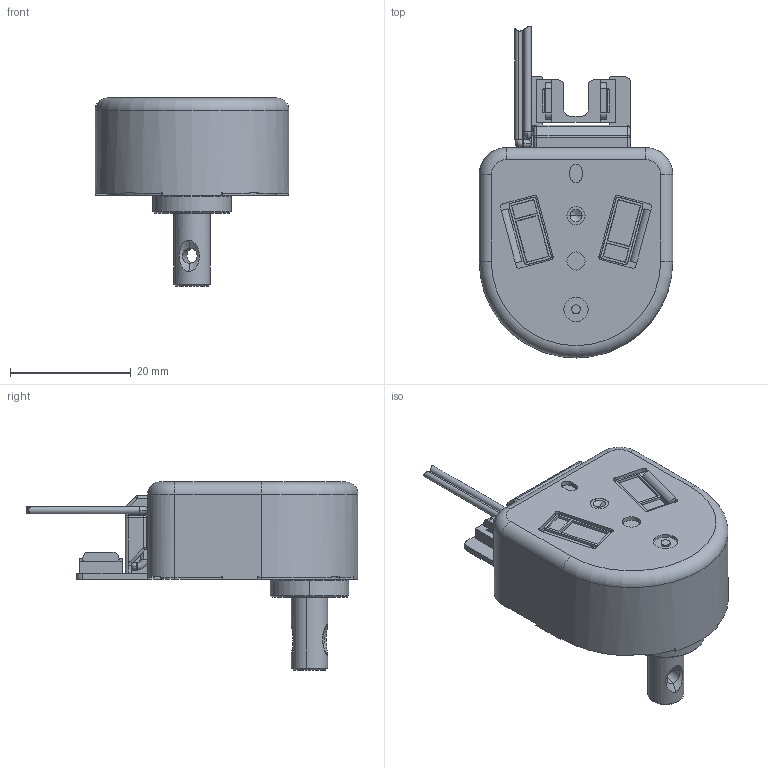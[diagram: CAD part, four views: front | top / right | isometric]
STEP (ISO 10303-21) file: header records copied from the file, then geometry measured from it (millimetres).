
FILE_DESCRIPTION (( 'STEP AP203' ), '1' );
FILE_NAME ('KSB32K_3D.STEP', '2026-07-02T00:58:13', ( '' ), ( '' ), 'SwSTEP 2.0', 'SolidWorks 2026', '' );
FILE_SCHEMA (( 'CONFIG_CONTROL_DESIGN' ));
Length unit declared in the file: millimetre
Products named in the file (1): KSB32K_3D
Bounding box: 32 x 54.87 x 31.1 mm (x, y, z)
Volume: 17462.8 mm3; surface area: 5411.4 mm2
Topology: 1 solids, 2 shells, 460 faces, 1202 edges, 761 vertices
Faces by surface type: plane 245, cylinder 143, cone 36, torus 25, sphere 7, bspline 4
Entity records: 14298 total; most frequent: CARTESIAN_POINT 2688, DIRECTION 2480, ORIENTED_EDGE 2382, EDGE_CURVE 1191, AXIS2_PLACEMENT_3D 851, LINE 778, VECTOR 778, VERTEX_POINT 761
